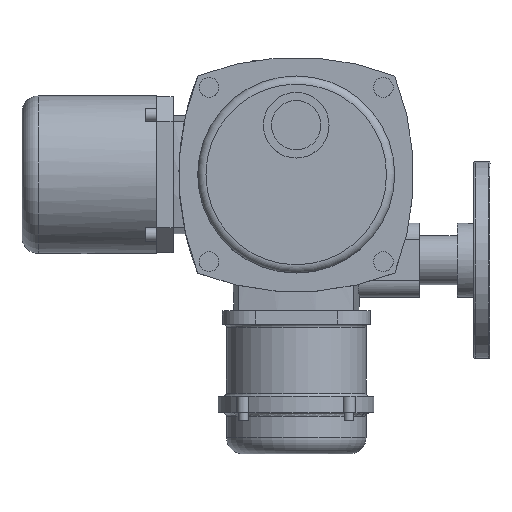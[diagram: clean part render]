
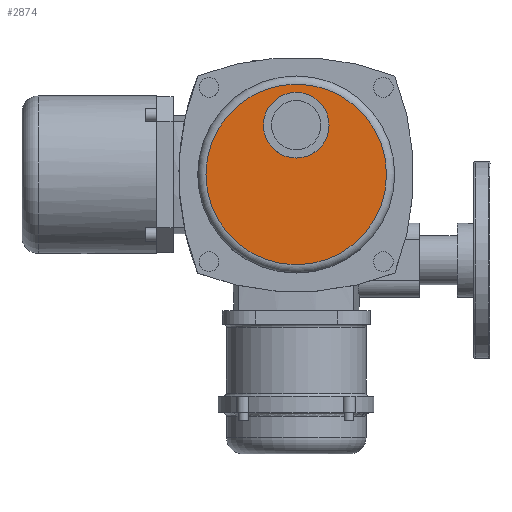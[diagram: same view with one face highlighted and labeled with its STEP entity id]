
A CAD part, top view. The second image highlights one B-rep face of the part: STEP entity #2874.
In plain terms, the highlighted planar face has unit normal (0, 0, 1).
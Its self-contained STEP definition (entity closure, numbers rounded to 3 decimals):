
#2874=ADVANCED_FACE('',(#5539,#5541),#5543,.T.);
#5539=FACE_BOUND('',#5540,.T.);
#5540=EDGE_LOOP('',(#7123));
#5541=FACE_BOUND('',#5542,.T.);
#5542=EDGE_LOOP('',(#7124));
#5543=PLANE('',#5544);
#5544=AXIS2_PLACEMENT_3D('',#5545,#5546,#5547);
#5545=CARTESIAN_POINT('',(5.,-8.,323.));
#5546=DIRECTION('',(0.,0.,1.));
#5547=DIRECTION('',(1.,0.,0.));
#7123=ORIENTED_EDGE('',*,*,#7842,.T.);
#7124=ORIENTED_EDGE('',*,*,#7903,.F.);
#7842=EDGE_CURVE('',#9020,#9020,#9021,.T.);
#7903=EDGE_CURVE('',#9112,#9112,#9113,.T.);
#9020=VERTEX_POINT('',#13965);
#9021=CIRCLE('',#13966,55.);
#9112=VERTEX_POINT('',#14222);
#9113=CIRCLE('',#14223,20.);
#13965=CARTESIAN_POINT('',(60.,-8.,323.));
#13966=AXIS2_PLACEMENT_3D('',#13967,#13968,#13969);
#13967=CARTESIAN_POINT('',(5.,-8.,323.));
#13968=DIRECTION('',(0.,0.,1.));
#13969=DIRECTION('',(1.,0.,0.));
#14222=CARTESIAN_POINT('',(25.,22.,323.));
#14223=AXIS2_PLACEMENT_3D('',#14224,#14225,#14226);
#14224=CARTESIAN_POINT('',(5.,22.,323.));
#14225=DIRECTION('',(0.,0.,1.));
#14226=DIRECTION('',(1.,0.,0.));
